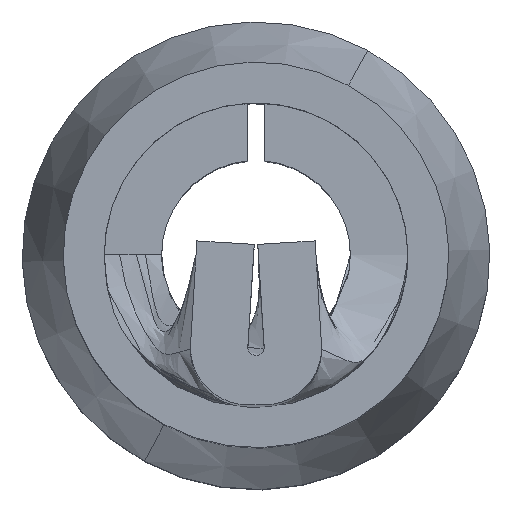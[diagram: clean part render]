
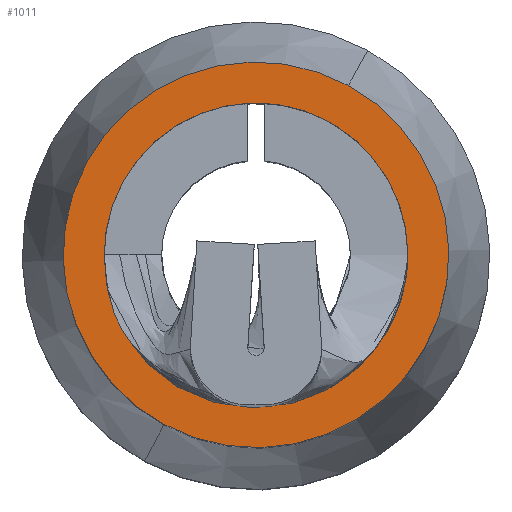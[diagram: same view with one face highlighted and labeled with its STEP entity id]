
A CAD part, top view. The second image highlights one B-rep face of the part: STEP entity #1011.
In plain terms, the highlighted planar face has unit normal (0, 0, 1) as drawn and (0, -1, 0) by its records, which use the part's own axes.
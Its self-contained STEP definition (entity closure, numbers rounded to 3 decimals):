
#80 = FACE_OUTER_BOUND ( 'NONE', #1739, .T. ) ;
#305 = AXIS2_PLACEMENT_3D ( 'NONE', #1517, #1662, #1062 ) ;
#317 = EDGE_LOOP ( 'NONE', ( #731, #327 ) ) ;
#327 = ORIENTED_EDGE ( 'NONE', *, *, #1048, .F. ) ;
#348 = AXIS2_PLACEMENT_3D ( 'NONE', #1437, #549, #1589 ) ;
#357 = EDGE_CURVE ( 'NONE', #450, #708, #980, .T. ) ;
#384 = CARTESIAN_POINT ( 'NONE',  ( 0., 0., -1.85 ) ) ;
#450 = VERTEX_POINT ( 'NONE', #738 ) ;
#507 = CARTESIAN_POINT ( 'NONE',  ( 0., 0., 2.35 ) ) ;
#530 = AXIS2_PLACEMENT_3D ( 'NONE', #384, #1115, #676 ) ;
#532 = PLANE ( 'NONE',  #530 ) ;
#549 = DIRECTION ( 'NONE',  ( 0., -1., 0. ) ) ;
#594 = VERTEX_POINT ( 'NONE', #1075 ) ;
#616 = AXIS2_PLACEMENT_3D ( 'NONE', #844, #1888, #1002 ) ;
#676 = DIRECTION ( 'NONE',  ( 0., 0., -1. ) ) ;
#699 = CARTESIAN_POINT ( 'NONE',  ( 0., 0., -1.85 ) ) ;
#708 = VERTEX_POINT ( 'NONE', #507 ) ;
#720 = CIRCLE ( 'NONE', #1251, 1.85 ) ;
#731 = ORIENTED_EDGE ( 'NONE', *, *, #939, .F. ) ;
#738 = CARTESIAN_POINT ( 'NONE',  ( 0., 0., -2.35 ) ) ;
#745 = ORIENTED_EDGE ( 'NONE', *, *, #1670, .T. ) ;
#806 = DIRECTION ( 'NONE',  ( 0., -1., 0. ) ) ;
#831 = FACE_BOUND ( 'NONE', #317, .T. ) ;
#844 = CARTESIAN_POINT ( 'NONE',  ( 0., 0., 0. ) ) ;
#939 = EDGE_CURVE ( 'NONE', #1078, #594, #720, .T. ) ;
#956 = ORIENTED_EDGE ( 'NONE', *, *, #357, .T. ) ;
#980 = CIRCLE ( 'NONE', #305, 2.35 ) ;
#1002 = DIRECTION ( 'NONE',  ( 0., 0., -1. ) ) ;
#1011 = ADVANCED_FACE ( 'NONE', ( #80, #831 ), #532, .T. ) ;
#1048 = EDGE_CURVE ( 'NONE', #594, #1078, #1581, .T. ) ;
#1062 = DIRECTION ( 'NONE',  ( 0., 0., -1. ) ) ;
#1075 = CARTESIAN_POINT ( 'NONE',  ( 0., 0., 1.85 ) ) ;
#1078 = VERTEX_POINT ( 'NONE', #699 ) ;
#1115 = DIRECTION ( 'NONE',  ( 0., -1., 0. ) ) ;
#1251 = AXIS2_PLACEMENT_3D ( 'NONE', #1703, #806, #1848 ) ;
#1437 = CARTESIAN_POINT ( 'NONE',  ( 0., 0., 0. ) ) ;
#1517 = CARTESIAN_POINT ( 'NONE',  ( 0., 0., 0. ) ) ;
#1581 = CIRCLE ( 'NONE', #616, 1.85 ) ;
#1589 = DIRECTION ( 'NONE',  ( 0., 0., -1. ) ) ;
#1662 = DIRECTION ( 'NONE',  ( 0., -1., 0. ) ) ;
#1670 = EDGE_CURVE ( 'NONE', #708, #450, #1716, .T. ) ;
#1703 = CARTESIAN_POINT ( 'NONE',  ( 0., 0., 0. ) ) ;
#1716 = CIRCLE ( 'NONE', #348, 2.35 ) ;
#1739 = EDGE_LOOP ( 'NONE', ( #956, #745 ) ) ;
#1848 = DIRECTION ( 'NONE',  ( 0., 0., -1. ) ) ;
#1888 = DIRECTION ( 'NONE',  ( 0., -1., 0. ) ) ;
